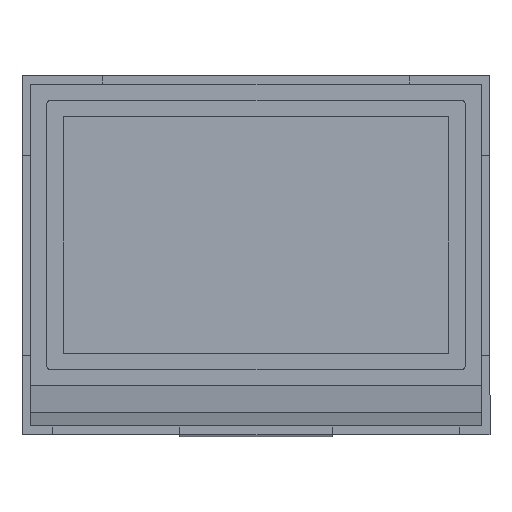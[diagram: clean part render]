
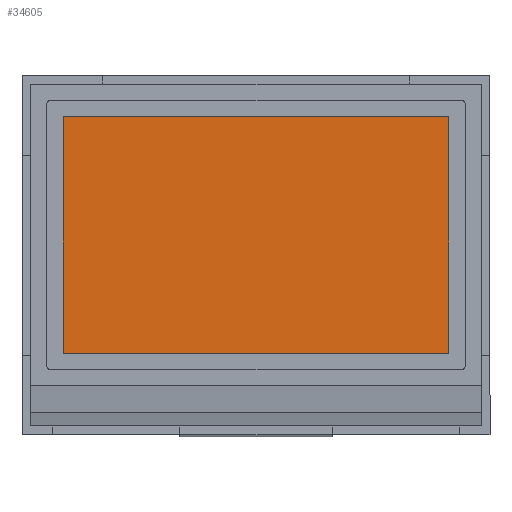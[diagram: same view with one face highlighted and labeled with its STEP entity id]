
A CAD part, top view. The second image highlights one B-rep face of the part: STEP entity #34605.
In plain terms, the highlighted planar face has unit normal (0, 0, 1).
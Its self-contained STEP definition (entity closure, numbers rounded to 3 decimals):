
#1384 = ORIENTED_EDGE ( 'NONE', *, *, #63229, .F. ) ;
#4334 = LINE ( 'NONE', #34204, #9196 ) ;
#5265 = DIRECTION ( 'NONE',  ( 0., 1., 0. ) ) ;
#9196 = VECTOR ( 'NONE', #40184, 1000. ) ;
#10977 = LINE ( 'NONE', #74399, #22249 ) ;
#15409 = CARTESIAN_POINT ( 'NONE',  ( 23.99, -14.71, 1.8 ) ) ;
#15571 = CARTESIAN_POINT ( 'NONE',  ( -23.99, 14.71, 1.8 ) ) ;
#19415 = DIRECTION ( 'NONE',  ( -1., 0., 0. ) ) ;
#22249 = VECTOR ( 'NONE', #68308, 1000. ) ;
#22263 = VERTEX_POINT ( 'NONE', #15571 ) ;
#22371 = EDGE_LOOP ( 'NONE', ( #87482, #39059, #75466, #1384 ) ) ;
#24656 = CARTESIAN_POINT ( 'NONE',  ( -23.99, -14.71, 1.8 ) ) ;
#29173 = AXIS2_PLACEMENT_3D ( 'NONE', #59999, #87471, #38112 ) ;
#34204 = CARTESIAN_POINT ( 'NONE',  ( 23.99, 0., 1.8 ) ) ;
#34605 = ADVANCED_FACE ( 'NONE', ( #81446 ), #66965, .T. ) ;
#38112 = DIRECTION ( 'NONE',  ( 1., 0., 0. ) ) ;
#39059 = ORIENTED_EDGE ( 'NONE', *, *, #76643, .F. ) ;
#40184 = DIRECTION ( 'NONE',  ( 0., -1., 0. ) ) ;
#40651 = LINE ( 'NONE', #69084, #44723 ) ;
#41279 = LINE ( 'NONE', #83207, #88026 ) ;
#44723 = VECTOR ( 'NONE', #5265, 1000. ) ;
#47470 = EDGE_CURVE ( 'NONE', #89047, #22263, #40651, .T. ) ;
#51218 = VERTEX_POINT ( 'NONE', #87988 ) ;
#59999 = CARTESIAN_POINT ( 'NONE',  ( 0., 0., 1.8 ) ) ;
#63229 = EDGE_CURVE ( 'NONE', #22263, #51218, #10977, .T. ) ;
#66965 = PLANE ( 'NONE',  #29173 ) ;
#68308 = DIRECTION ( 'NONE',  ( 1., 0., 0. ) ) ;
#69084 = CARTESIAN_POINT ( 'NONE',  ( -23.99, 0., 1.8 ) ) ;
#74399 = CARTESIAN_POINT ( 'NONE',  ( 0., 14.71, 1.8 ) ) ;
#75466 = ORIENTED_EDGE ( 'NONE', *, *, #90485, .F. ) ;
#76643 = EDGE_CURVE ( 'NONE', #83310, #89047, #41279, .T. ) ;
#81446 = FACE_OUTER_BOUND ( 'NONE', #22371, .T. ) ;
#83207 = CARTESIAN_POINT ( 'NONE',  ( 0., -14.71, 1.8 ) ) ;
#83310 = VERTEX_POINT ( 'NONE', #15409 ) ;
#87471 = DIRECTION ( 'NONE',  ( 0., 0., 1. ) ) ;
#87482 = ORIENTED_EDGE ( 'NONE', *, *, #47470, .F. ) ;
#87988 = CARTESIAN_POINT ( 'NONE',  ( 23.99, 14.71, 1.8 ) ) ;
#88026 = VECTOR ( 'NONE', #19415, 1000. ) ;
#89047 = VERTEX_POINT ( 'NONE', #24656 ) ;
#90485 = EDGE_CURVE ( 'NONE', #51218, #83310, #4334, .T. ) ;
